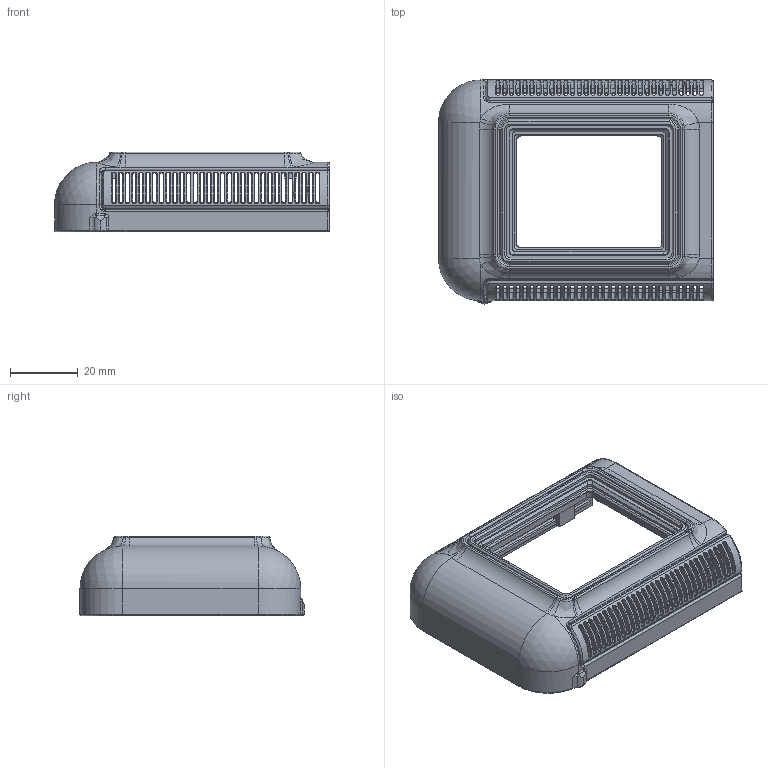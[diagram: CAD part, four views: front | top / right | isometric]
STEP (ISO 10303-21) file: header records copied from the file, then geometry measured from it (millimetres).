
FILE_DESCRIPTION(/* description */ (''),/* implementation_level */ '2;1');
FILE_NAME(/* name */ 'rear_cover.step',/* time_stamp */ '2026-07-06T12:52:32-05:00',/* author */ (''),/* organization */ (''),/* preprocessor_version */ 'ST-DEVELOPER v20.1',/* originating_system */ 'Autodesk Translation Framework v15.8.0.0',/* authorisation */ '');
FILE_SCHEMA (('AUTOMOTIVE_DESIGN { 1 0 10303 214 3 1 1 }'));
Length unit declared in the file: millimetre
Products named in the file (1): SaturnixLite_Hull
Bounding box: 81 x 65.99 x 23.5 mm (x, y, z)
Volume: 17987.8 mm3; surface area: 19523.4 mm2
Topology: 1 solids, 1 shells, 1564 faces, 4099 edges, 2588 vertices
Faces by surface type: bspline 580, plane 563, cylinder 241, cone 144, torus 28, sphere 8
Full cylindrical faces by diameter (mm): 1.5 x4, 3.5 x4
Entity records: 62942 total; most frequent: CARTESIAN_POINT 28288, ORIENTED_EDGE 8196, DIRECTION 5452, EDGE_CURVE 4098, VERTEX_POINT 2588, LINE 2158, VECTOR 2158, EDGE_LOOP 1742
